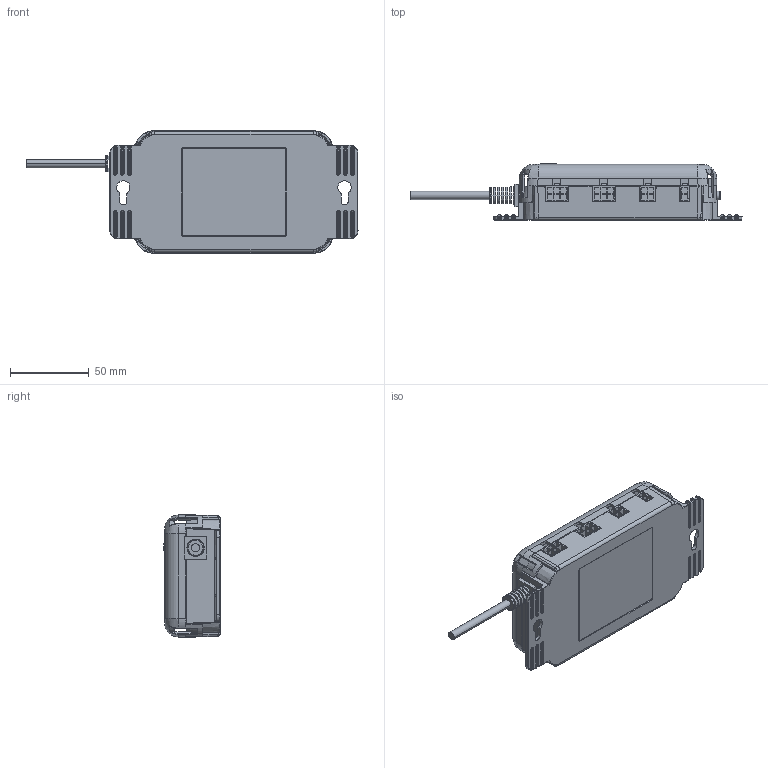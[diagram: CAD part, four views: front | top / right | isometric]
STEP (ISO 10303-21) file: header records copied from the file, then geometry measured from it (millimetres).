
FILE_DESCRIPTION((''),'2;1');
FILE_NAME('CF32','2025-03-20T',('USER'),(''),'PRO/ENGINEER BY PARAMETRIC TECHNOLOGY CORPORATION, 2016240','PRO/ENGINEER BY PARAMETRIC TECHNOLOGY CORPORATION, 2016240','');
FILE_SCHEMA(('CONFIG_CONTROL_DESIGN'));
Length unit declared in the file: millimetre
Products named in the file (1): CF32
Bounding box: 211.39 x 36 x 78 mm (x, y, z)
Surface area: 62618.3 mm2 (no closed solid volume)
Topology: 0 solids, 28 shells, 936 faces, 3174 edges, 2171 vertices
Faces by surface type: plane 404, cylinder 297, torus 89, bspline 82, sphere 31, cone 27, extrusion 6
Entity records: 42864 total; most frequent: CARTESIAN_POINT 17247, ORIENTED_EDGE 5192, DIRECTION 4839, EDGE_CURVE 3150, VERTEX_POINT 2171, VECTOR 1703, LINE 1697, AXIS2_PLACEMENT_3D 1568
